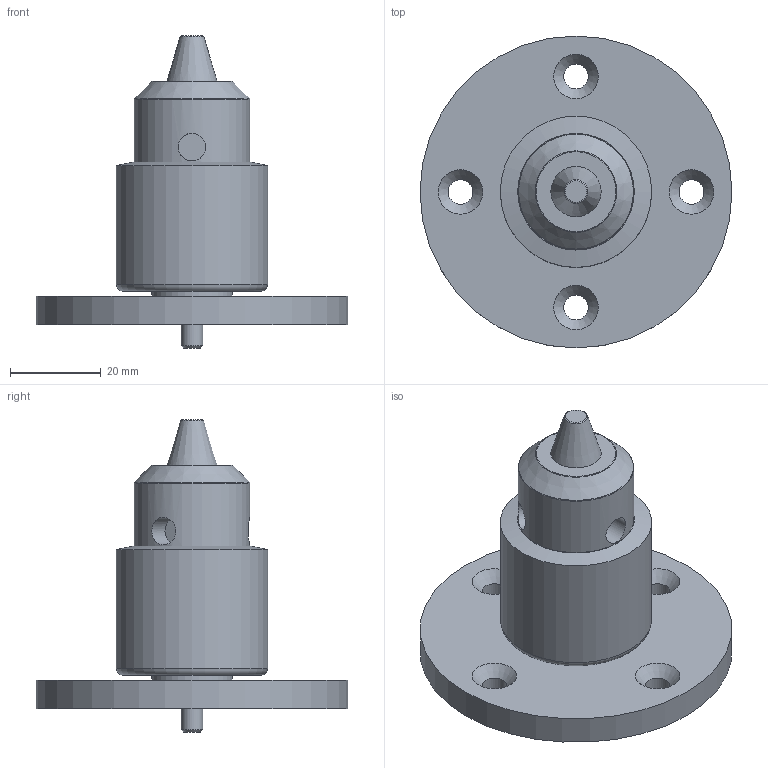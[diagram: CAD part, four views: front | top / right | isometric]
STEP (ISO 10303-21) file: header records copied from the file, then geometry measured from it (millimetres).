
FILE_DESCRIPTION((''),'2;1');
FILE_NAME('F:\CAD files\Itr\3D MARKETING MODELS\GRIPS\G1022\G1022-2.stp','2017-06-21T16:49:44',('mlampen'),(''),'Autodesk Inventor 2010','Autodesk Inventor 2010','');
FILE_SCHEMA(('AUTOMOTIVE_DESIGN { 1 0 10303 214 1 1 1 1 }'));
Length unit declared in the file: inch
Products named in the file (1): Part2
Bounding box: 68.58 x 68.58 x 68.63 mm (x, y, z)
Volume: 56010.8 mm3; surface area: 14887 mm2
Topology: 1 solids, 1 shells, 34 faces, 73 edges, 48 vertices
Faces by surface type: cylinder 12, plane 10, cone 8, torus 4
Full cylindrical faces by diameter (mm): 4.724 x1, 5.41 x4, 6.096 x3, 17.78 x1, 25.4 x1, 33.274 x1, 68.58 x1
Entity records: 875 total; most frequent: CARTESIAN_POINT 220, DIRECTION 138, ORIENTED_EDGE 80, EDGE_LOOP 74, AXIS2_PLACEMENT_3D 69, VERTEX_POINT 40, EDGE_CURVE 40, FACE_BOUND 40
